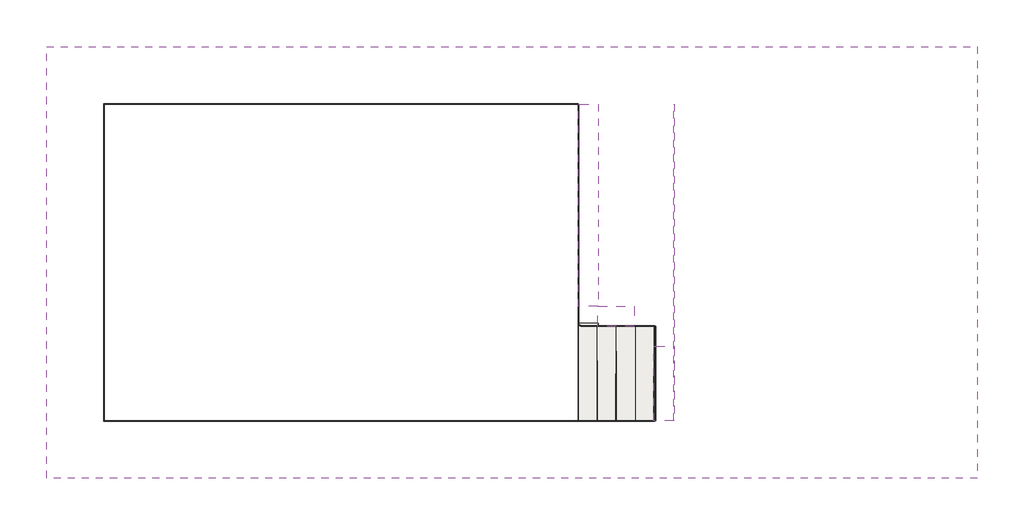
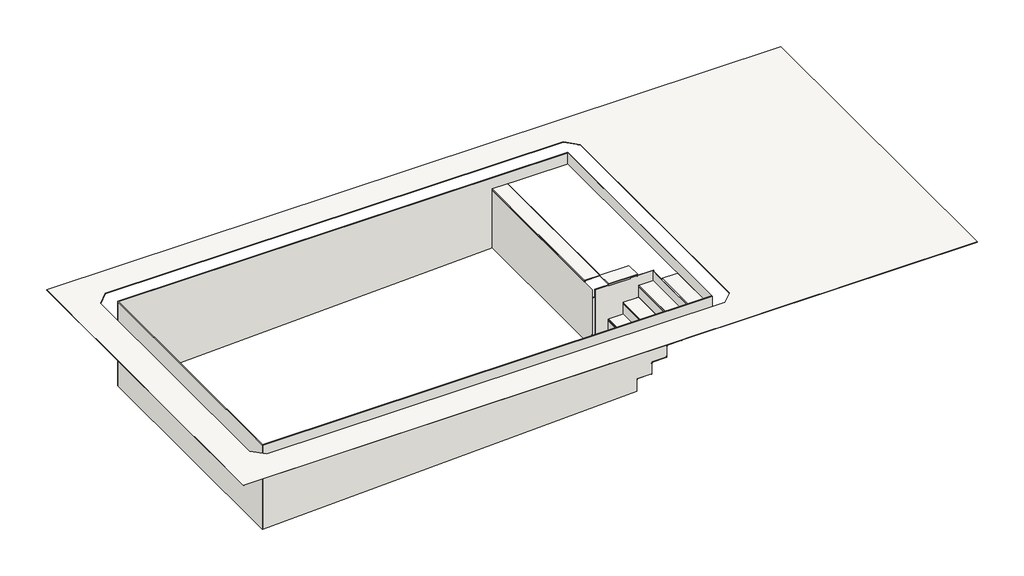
# One storey: 10 walls, 9 slabs.
"""IFC4 building model written with IfcOpenShell, lengths in millimetres."""

from ifc_helpers import new_model, si_unit, frame, origin, place, context, project, spatial, polyline, outline, extrude, faceted_brep, transform, mapped, element, save
from components import slab_bc5605a9, slab_481ddfbc, slab_0c0f7e66, slab_fc769800, slab_a524a29e, slab_aded0684, slab_8f1299f5, slab_2ceaf25b

model = new_model("IFC4")

# Units and contexts
model_context = context("Model", 3, world=origin())
ifc_project = project(units=[si_unit("LENGTHUNIT", "METRE", prefix="MILLI")], contexts=[model_context])

# Site, building, storey
site = spatial("IfcSite", under=ifc_project)
building = spatial("IfcBuilding", under=site)
storey = spatial("IfcBuildingStorey", under=building, Name="3_NFondo1P1 -1.50", Elevation=-1500.0)

# Slabs
placement = place(None, origin())
element("IfcSlab", 1, ObjectType="Pieza 316_Patrón 1/3_Serena_Ocra_Anti-Slip", at=placement, inside=storey, context=model_context, shape_type="SweptSolid", body=[
    extrude(outline(polyline([(16795.0378198, 12993.7561359), (16789.113213, 6175.7466989), (2089.8845491, 6175.7467), (2089.8845491, 12993.7561359), (16795.0378198, 12993.7561359)]), holes=[polyline([(2916.2512248, 12385.7701072), (2698.2455778, 12167.7644602), (2698.2455778, 7002.5156276), (2916.8722274, 6783.888978), (12080.8610566, 6783.888978), (12295.2286491, 6998.2565706), (12299.7201615, 12167.0678294), (12081.0178838, 12385.7701072), (2916.2512248, 12385.7701072)])]), frame((0.0, 0.0, -9.0), z_axis=(0.0, 0.0, 1.0), x_axis=(1.0, 0.0, 0.0)), (0.0, 0.0, 1.0), 9.0),
])
slab_shape = slab_bc5605a9(model_context)
element("IfcSlab", 2, ObjectType="ROSA GRES_L98 : Pieza L98_Serena_Ocra_Anti-Slip", at=placement, inside=storey, context=model_context, shape_type="MappedRepresentation", body=[
    mapped(slab_shape, transform((11086.5884362, 8575.7866401, -750.0), x_axis=(-0.0008694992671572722, -0.9999996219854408, 0.0), y_axis=(0.9999996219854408, -0.0008694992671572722, 0.0), z_axis=(0.0, 0.0, 1.0))),
])
slab_2_shape = slab_481ddfbc(model_context)
element("IfcSlab", 3, ObjectType="ROSA GRES_L98 : Pieza L98_Serena_Ocra_Anti-Slip", at=placement, inside=storey, context=model_context, shape_type="MappedRepresentation", body=[
    mapped(slab_2_shape, transform((10786.5892591, 8576.838456, -1000.0), x_axis=(-0.0008697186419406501, -0.9999996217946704, 0.0), y_axis=(0.9999996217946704, -0.0008697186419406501, 0.0), z_axis=(0.0, 0.0, 1.0))),
])
slab_3_shape = slab_0c0f7e66(model_context)
element("IfcSlab", 4, ObjectType="ROSA GRES_L98 : Pieza L98_Serena_Ocra_Anti-Slip", at=placement, inside=storey, context=model_context, shape_type="MappedRepresentation", body=[
    mapped(slab_3_shape, transform((11394.2924961, 7084.7466993, -500.0), x_axis=(0.0008692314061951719, 0.99999962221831, 0.0), y_axis=(-0.99999962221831, 0.0008692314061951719, 0.0), z_axis=(0.0, 0.0, 1.0))),
])
slab_4_shape = slab_fc769800(model_context)
element("IfcSlab", 5, ObjectType="ROSA GRES_L98 : Pieza L98_Serena_Ocra_Anti-Slip", at=placement, inside=storey, context=model_context, shape_type="MappedRepresentation", body=[
    mapped(slab_4_shape, transform((11685.2930074, 8262.1672, -265.0), x_axis=(0.0, -1.0, 0.0), y_axis=(1.0, 0.0, 0.0), z_axis=(0.0, 0.0, 1.0))),
])
slab_5_shape = slab_a524a29e(model_context)
element("IfcSlab", 6, ObjectType="ROSA GRES_L98 : Pieza L98_Serena_Ocra_Anti-Slip", at=placement, inside=storey, context=model_context, shape_type="MappedRepresentation", body=[
    mapped(slab_5_shape, transform((10800.5865182, 8574.9330082, -265.0), x_axis=(1.0, 0.0, 0.0), y_axis=(0.0, 1.0, 0.0), z_axis=(0.0, 0.0, 1.0))),
])
slab_6_shape = slab_aded0684(model_context)
element("IfcSlab", 7, ObjectType="ROSA GRES_L98 : Pieza L98_Serena_Ocra_Anti-Slip", at=placement, inside=storey, context=model_context, shape_type="MappedRepresentation", body=[
    mapped(slab_6_shape, transform((10486.8619386, 12084.7561359, -265.0), x_axis=(0.0, -1.0, 0.0), y_axis=(1.0, 0.0, 0.0), z_axis=(0.0, 0.0, 1.0))),
])
slab_7_shape = slab_8f1299f5(model_context)
element("IfcSlab", 8, ObjectType="ROSA GRES_L98 : Pieza L98_Serena_Ocra_Anti-Slip", at=placement, inside=storey, context=model_context, shape_type="MappedRepresentation", body=[
    mapped(slab_7_shape, transform((10485.2939568, 8619.7466993, -1250.0), x_axis=(0.0, -1.0, 0.0), y_axis=(1.0, 0.0, 0.0), z_axis=(0.0, 0.0, 1.0))),
])
slab_8_shape = slab_2ceaf25b(model_context)
element("IfcSlab", 9, ObjectType="ROSA GRES_183 : Pieza 183_Serena_Ocra_Anti-Slip", at=placement, inside=storey, context=model_context, shape_type="MappedRepresentation", body=[
    mapped(slab_8_shape, transform((10526.8717632, 8617.7492876, -440.0), x_axis=(0.0, 0.0, -1.0), y_axis=(0.999993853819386, -0.0035060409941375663, 0.0), z_axis=(-0.0035060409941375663, -0.999993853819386, 0.0))),
])

# Walls
element("IfcWall", 10, ObjectType="Pieza 316_Patrón 1/3_Serena_Ocra_Anti-Slip", at=placement, inside=storey, context=model_context, shape_type="Brep", body=[
    faceted_brep([(2994.0095457, 12084.7561359, -1800.3606386), (10489.6373827, 12084.7561402, -1500.0062712), (10489.6373827, 12084.7561402, -254.1051036), (12007.6345576, 12084.7561411, -254.1051036), (12007.6345576, 12084.7561411, -248.9213773), (12007.6345576, 12084.7561411, -17.0833906), (2994.0095457, 12084.7561359, -17.0833906), (2994.0095457, 12084.7561359, -1800.0), (2994.0173664, 12093.7561359, -1800.3603252), (2994.0173664, 12093.7561359, -17.0833906), (12007.6423783, 12093.7561411, -17.0833906), (12007.6423783, 12093.7561411, -254.1051036), (10489.6452008, 12093.7561402, -254.1051036), (10489.6452008, 12093.7561402, -1500.0059579)], [[[0, 1, 2, 3, 4, 5, 6, 7]], [[8, 9, 10, 11, 12, 13]], [[0, 7, 6, 9, 8]], [[5, 4, 3, 11, 10]], [[1, 0, 8, 13]], [[6, 5, 10, 9]], [[3, 2, 12, 11]], [[2, 1, 13, 12]]]),
])
element("IfcWall", 11, ObjectType="Pieza 316_Patrón 1/3_Serena_Ocra_Anti-Slip", at=placement, inside=storey, context=model_context, shape_type="Brep", body=[
    faceted_brep([(2998.6568999, 7075.7467, -1800.0), (3003.0095491, 12084.7561359, -1800.0), (3003.0095491, 12084.7561359, -14.9630721), (2998.6568999, 7075.7467, -14.9630721), (2998.6568999, 7075.7467, -16.9947118), (2989.6568965, 7075.7467, -1800.0), (2989.6568965, 7075.7467, -14.9630721), (2994.0095457, 12084.7561359, -14.9630721), (2994.0095457, 12084.7561359, -17.0833906), (2994.0095457, 12084.7561359, -1800.0)], [[[0, 1, 2, 3, 4]], [[5, 6, 7, 8, 9]], [[2, 1, 9, 8, 7]], [[0, 4, 3, 6, 5]], [[1, 0, 5, 9]], [[3, 2, 7, 6]]]),
])
element("IfcWall", 12, ObjectType="Pieza 316_Patrón 1/3_Serena_Ocra_Anti-Slip", at=placement, inside=storey, context=model_context, shape_type="Brep", body=[
    faceted_brep([(12003.2897279, 7084.7466993, -253.75), (11694.2930108, 7084.7466993, -253.75), (11694.2930108, 7084.7466993, -287.6600217), (11694.2930108, 7084.7466993, -485.0), (11403.2924995, 7084.7466993, -485.0), (11403.2924995, 7084.7466993, -519.1170334), (11403.2924995, 7084.7466993, -735.0), (11094.291981, 7084.7466994, -735.0), (11094.291981, 7084.7466994, -771.2666472), (11094.291981, 7084.7466994, -985.0), (10794.291562, 7084.7466994, -985.0), (10794.291562, 7084.7466994, -1021.3638329), (10794.291562, 7084.7466994, -1235.0), (10494.2939602, 7084.7466994, -1235.0), (10494.2939602, 7084.7466994, -1270.0), (10494.2939602, 7084.7466994, -1499.8196822), (2998.6647206, 7084.7467, -1800.1741058), (2998.6647206, 7084.7467, -16.9947118), (12003.2897279, 7084.7466993, -16.9947118), (12003.2897279, 7084.7466993, -248.9213773), (12003.2819072, 7075.7466993, -253.75), (12003.2819072, 7075.7466993, -16.9947118), (2998.6568999, 7075.7467, -16.9947118), (2998.6568999, 7075.7467, -1800.0), (2998.6568999, 7075.7467, -1800.1744192), (10494.2861421, 7075.7466994, -1499.8199955), (10494.2861421, 7075.7466994, -1235.0), (10794.2837345, 7075.7466994, -1235.0), (10794.2837345, 7075.7466994, -985.0), (11094.2841555, 7075.7466994, -985.0), (11094.2841555, 7075.7466994, -735.0), (11403.2846764, 7075.7466993, -735.0), (11403.2846764, 7075.7466993, -485.0), (11694.2851902, 7075.7466993, -485.0), (11694.2851902, 7075.7466993, -253.75)], [[[0, 1, 2, 3, 4, 5, 6, 7, 8, 9, 10, 11, 12, 13, 14, 15, 16, 17, 18, 19]], [[20, 21, 22, 23, 24, 25, 26, 27, 28, 29, 30, 31, 32, 33, 34]], [[17, 16, 24, 23, 22]], [[0, 19, 18, 21, 20]], [[16, 15, 25, 24]], [[18, 17, 22, 21]], [[1, 0, 20, 34]], [[4, 3, 33, 32]], [[7, 6, 31, 30]], [[10, 9, 29, 28]], [[13, 12, 27, 26]], [[15, 14, 13, 26, 25]], [[3, 2, 1, 34, 33]], [[6, 5, 4, 32, 31]], [[9, 8, 7, 30, 29]], [[12, 11, 10, 28, 27]]]),
])
element("IfcWall", 13, ObjectType="Pieza 316_Patrón 1/3_Serena_Ocra_Anti-Slip", at=placement, inside=storey, context=model_context, shape_type="Brep", body=[
    faceted_brep([(11998.6345542, 12084.7561411, -248.9213773), (11994.2897245, 7084.7466993, -248.9213773), (11994.2897245, 7084.7466993, -16.7931377), (11998.6345542, 12084.7561411, -16.7931377), (12007.6345576, 12084.7561411, -248.9213773), (12007.6345576, 12084.7561411, -17.0833906), (12007.6345576, 12084.7561411, -16.7931377), (12003.2897279, 7084.7466993, -16.7931377), (12003.2897279, 7084.7466993, -16.9947118), (12003.2897279, 7084.7466993, -248.9213773)], [[[0, 1, 2, 3]], [[4, 5, 6, 7, 8, 9]], [[0, 3, 6, 5, 4]], [[2, 1, 9, 8, 7]], [[1, 0, 4, 9]], [[3, 2, 7, 6]]]),
])
element("IfcWall", 14, ObjectType="Pieza 316_Patrón 1/3_Serena_Ocra_Anti-Slip", at=placement, inside=storey, context=model_context, shape_type="Brep", body=[
    faceted_brep([(10485.2939568, 7084.7466994, -1500.0), (10485.2939568, 7084.7466994, -1270.0), (10486.6254401, 8617.5066246, -1270.0), (10486.6254401, 8617.5066246, -285.0), (10489.6373861, 12084.7600493, -285.0), (10489.6373861, 12084.7600493, -1500.0), (10494.2939602, 7084.7466994, -1500.0), (10498.6373827, 12084.7522311, -1500.0), (10498.6373827, 12084.7522311, -285.0), (10495.6254367, 8617.4988065, -285.0), (10495.6254367, 8617.4988065, -1270.0), (10494.2939602, 7084.7466994, -1270.0), (10494.2939602, 7084.7466994, -1499.8196822)], [[[0, 1, 2, 3, 4, 5]], [[6, 7, 8, 9, 10, 11, 12]], [[0, 5, 7, 6]], [[2, 1, 11, 10]], [[3, 2, 10, 9]], [[4, 3, 9, 8]], [[5, 4, 8, 7]], [[1, 0, 6, 12, 11]]]),
])
element("IfcWall", 15, ObjectType="Pieza 316_Patrón 1/3_Serena_Ocra_Anti-Slip", at=placement, inside=storey, context=model_context, shape_type="Brep", body=[
    faceted_brep([(10526.7315215, 8577.7495334, -1235.0), (10795.5892351, 8576.8069015, -1235.0), (10795.5892351, 8576.8069015, -1021.3638329), (10795.5892351, 8576.8069015, -985.0), (11095.5884122, 8575.7550856, -985.0), (11095.5884122, 8575.7550856, -771.2666472), (11095.5884122, 8575.7550856, -735.0), (11404.5875896, 8574.6717152, -735.0), (11404.5875896, 8574.6717152, -519.1170334), (11404.5875896, 8574.6717152, -485.0), (11695.5868154, 8573.6514537, -485.0), (11695.5868154, 8573.6514537, -287.6600217), (11695.5868154, 8573.6514537, -275.1888268), (10526.7277143, 8577.7495468, -275.1888268), (10526.7630759, 8586.7494781, -1235.0), (10526.7592687, 8586.7494915, -275.1888268), (11695.5946361, 8582.6514816, -275.1888268), (11695.5946361, 8582.6514816, -485.0), (11404.5954127, 8583.6717431, -485.0), (11404.5954127, 8583.6717431, -735.0), (11095.5962377, 8584.7551135, -735.0), (11095.5962377, 8584.7551135, -985.0), (10795.5970626, 8585.8069294, -985.0), (10795.5970626, 8585.8069294, -1235.0)], [[[0, 1, 2, 3, 4, 5, 6, 7, 8, 9, 10, 11, 12, 13]], [[14, 15, 16, 17, 18, 19, 20, 21, 22, 23]], [[12, 11, 10, 17, 16]], [[13, 12, 16, 15]], [[0, 13, 15, 14]], [[1, 0, 14, 23]], [[4, 3, 22, 21]], [[7, 6, 20, 19]], [[10, 9, 18, 17]], [[9, 8, 7, 19, 18]], [[6, 5, 4, 21, 20]], [[3, 2, 1, 23, 22]]]),
])
element("IfcWall", 16, ObjectType="Pieza 316_Patrón 1/3_Serena_Ocra_Anti-Slip", at=placement, inside=storey, context=model_context, shape_type="Brep", body=[
    faceted_brep([(11686.5868394, 8573.6830082, -500.0), (11685.2930074, 7084.7466993, -500.0), (11685.2930074, 7084.7466993, -287.6600217), (11686.5868394, 8573.6830082, -287.6600217), (11695.5868154, 8573.6514537, -500.0), (11695.5868154, 8573.6514537, -485.0), (11695.5868154, 8573.6514537, -287.6600217), (11694.2930108, 7084.7466993, -287.6600217), (11694.2930108, 7084.7466993, -485.0), (11694.2930108, 7084.7466993, -500.0)], [[[0, 1, 2, 3]], [[4, 5, 6, 7, 8, 9]], [[1, 0, 4, 9]], [[3, 2, 7, 6]], [[0, 3, 6, 5, 4]], [[2, 1, 9, 8, 7]]]),
])
element("IfcWall", 17, ObjectType="Pieza 316_Patrón 1/3_Serena_Ocra_Anti-Slip", at=placement, inside=storey, context=model_context, shape_type="Brep", body=[
    faceted_brep([(11403.2924995, 7084.7466993, -750.0), (11404.5875896, 8574.6717152, -750.0), (11404.5875896, 8574.6717152, -735.0), (11404.5875896, 8574.6717152, -519.1170334), (11403.2924995, 7084.7466993, -519.1170334), (11403.2924995, 7084.7466993, -735.0), (11394.2924961, 7084.7466993, -750.0), (11394.2924961, 7084.7466993, -519.1170334), (11395.5876137, 8574.7032696, -519.1170334), (11395.5876137, 8574.7032696, -750.0)], [[[0, 1, 2, 3, 4, 5]], [[6, 7, 8, 9]], [[1, 0, 6, 9]], [[4, 3, 8, 7]], [[3, 2, 1, 9, 8]], [[0, 5, 4, 7, 6]]]),
])
element("IfcWall", 18, ObjectType="Pieza 316_Patrón 1/3_Serena_Ocra_Anti-Slip", at=placement, inside=storey, context=model_context, shape_type="Brep", body=[
    faceted_brep([(11086.5884362, 8575.7866401, -1000.0), (11085.2919776, 7084.7466994, -1000.0), (11085.2919776, 7084.7466994, -771.2666472), (11086.5884362, 8575.7866401, -771.2666472), (11095.5884122, 8575.7550856, -1000.0), (11095.5884122, 8575.7550856, -985.0), (11095.5884122, 8575.7550856, -771.2666472), (11094.291981, 7084.7466994, -771.2666472), (11094.291981, 7084.7466994, -985.0), (11094.291981, 7084.7466994, -1000.0)], [[[0, 1, 2, 3]], [[4, 5, 6, 7, 8, 9]], [[1, 0, 4, 9]], [[3, 2, 7, 6]], [[0, 3, 6, 5, 4]], [[2, 1, 9, 8, 7]]]),
])
element("IfcWall", 19, ObjectType="Pieza 316_Patrón 1/3_Serena_Ocra_Anti-Slip", at=placement, inside=storey, context=model_context, shape_type="Brep", body=[
    faceted_brep([(10786.5892591, 8576.838456, -1250.0), (10785.2915586, 7084.7466994, -1250.0), (10785.2915586, 7084.7466994, -1021.3638329), (10786.5892591, 8576.838456, -1021.3638329), (10795.5892351, 8576.8069015, -1250.0), (10795.5892351, 8576.8069015, -1235.0), (10795.5892351, 8576.8069015, -1021.3638329), (10794.291562, 7084.7466994, -1021.3638329), (10794.291562, 7084.7466994, -1235.0), (10794.291562, 7084.7466994, -1250.0)], [[[0, 1, 2, 3]], [[4, 5, 6, 7, 8, 9]], [[1, 0, 4, 9]], [[3, 2, 7, 6]], [[0, 3, 6, 5, 4]], [[2, 1, 9, 8, 7]]]),
])

save(model, "model.ifc")
